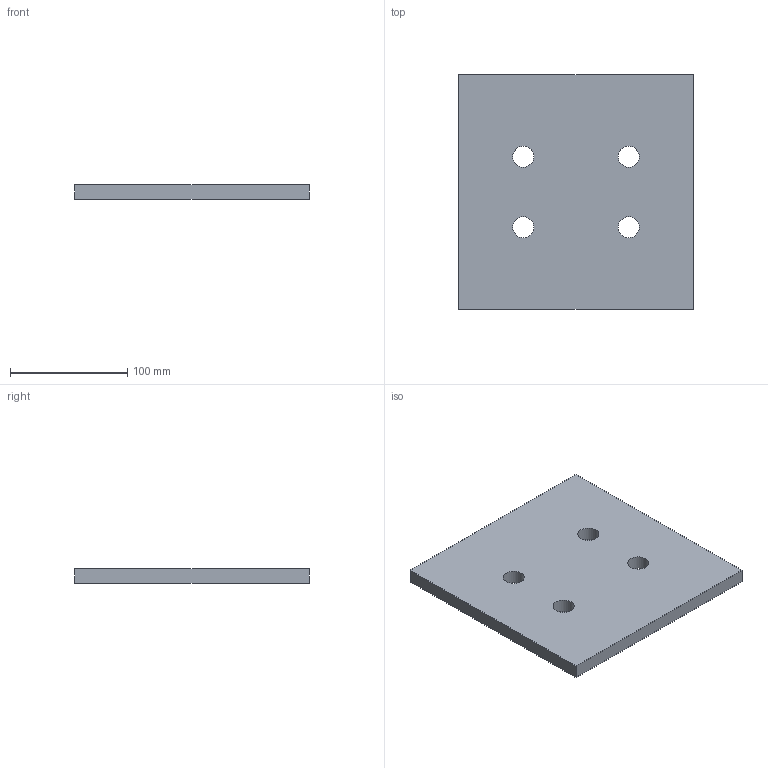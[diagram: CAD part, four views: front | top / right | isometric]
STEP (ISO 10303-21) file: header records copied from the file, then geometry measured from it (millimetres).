
FILE_DESCRIPTION(('Open CASCADE Model'),'2;1');
FILE_NAME('Open CASCADE Shape Model','2026-10-15T15:10:04',('Author'),( 'Open CASCADE'),'Open CASCADE STEP processor 8.0','Open CASCADE 8.0' ,'Unknown');
FILE_SCHEMA(('AUTOMOTIVE_DESIGN { 1 0 10303 214 1 1 1 1 }'));
Length unit declared in the file: millimetre
Products named in the file (1): U01_CAP_200x200x12_P05 46
Bounding box: 200 x 200 x 12 mm (x, y, z)
Volume: 467785.5 mm3; surface area: 90278.6 mm2
Topology: 1 solids, 1 shells, 10 faces, 24 edges, 16 vertices
Faces by surface type: plane 6, cylinder 4
Full cylindrical faces by diameter (mm): 18 x4
Entity records: 634 total; most frequent: DIRECTION 102, CARTESIAN_POINT 99, LINE 56, VECTOR 56, ORIENTED_EDGE 48, PCURVE 48, DEFINITIONAL_REPRESENTATION 48, EDGE_CURVE 24
